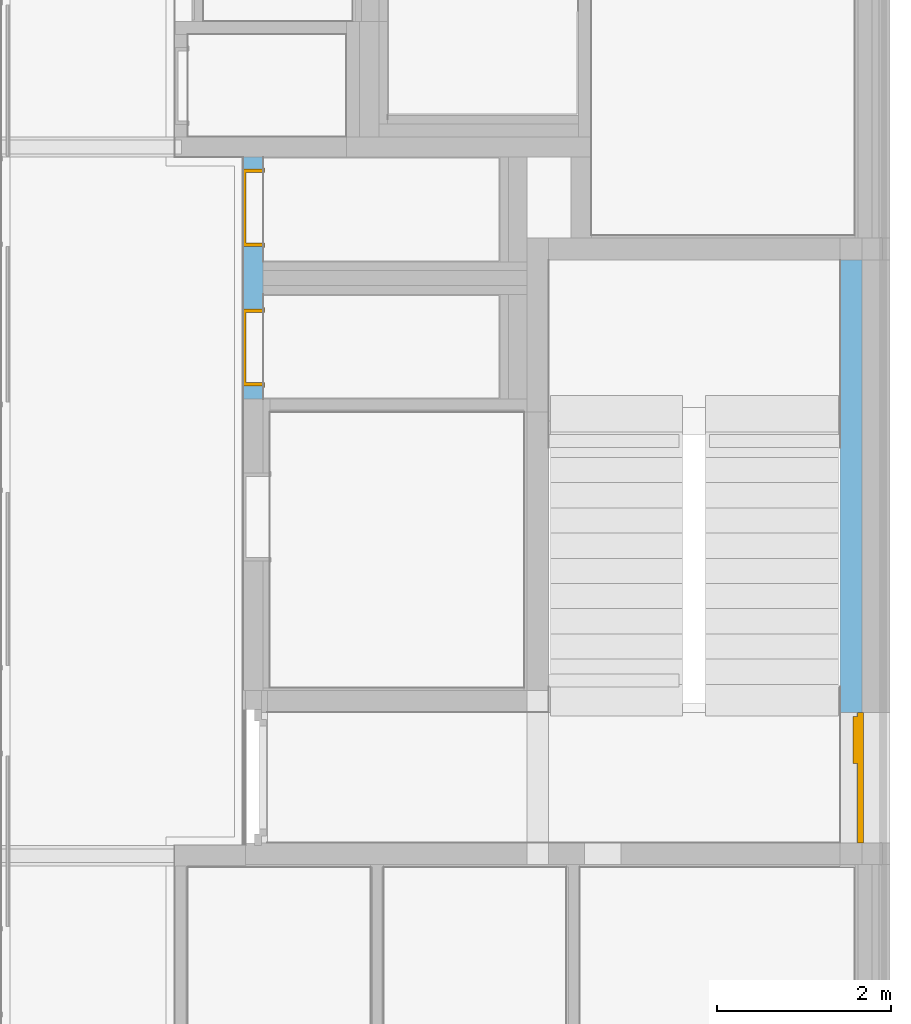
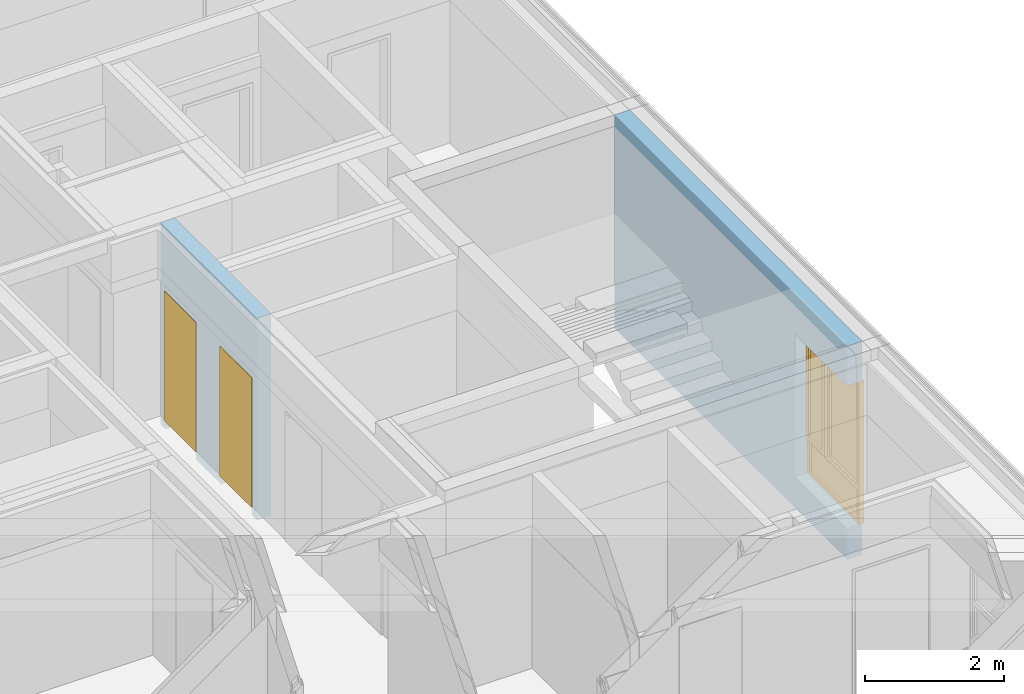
# One storey, part 136 of 222: 2 doors, 1 window, 3 openings, plus 2 elements that do not belong to this part.
"""IFC4 building model written with IfcOpenShell, lengths in metres."""

from ifc_helpers import new_model, entity, si_unit, converted_unit, derived_unit, frame, frame_2d, origin, origin_with_axes, place, context, subcontext, project, spatial, polyline, rectangle, outline, extrude, closed_shell, open_shell, faceted_brep, surface_model, source, transform, mapped, material, type_object, element, fill, save


model = new_model("IFC4")

# Units and contexts
model_context = context("Model", 3, precision=1e-05, world=origin())
body_context = subcontext(model_context, "Body", "Model", "MODEL_VIEW")
ifc_project = project(units=[si_unit("LENGTHUNIT", "METRE"), si_unit("AREAUNIT", "SQUARE_METRE"), si_unit("VOLUMEUNIT", "CUBIC_METRE"), si_unit("MASSUNIT", "GRAM", prefix="KILO"), converted_unit("PLANEANGLEUNIT", "DEGREE", entity("IfcPlaneAngleMeasure", 0.0174532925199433), si_unit("PLANEANGLEUNIT", "RADIAN"), dimensions=[0, 0, 0, 0, 0, 0, 0]), derived_unit("THERMALTRANSMITTANCEUNIT", [(si_unit("POWERUNIT", "WATT"), 1), (si_unit("THERMODYNAMICTEMPERATUREUNIT", "KELVIN"), -1), (si_unit("LENGTHUNIT", "METRE"), -2)]), derived_unit("VOLUMETRICFLOWRATEUNIT", [(si_unit("LENGTHUNIT", "METRE"), 3), (converted_unit("TIMEUNIT", "hour", entity("IfcTimeMeasure", 3600.0), si_unit("TIMEUNIT", "SECOND"), dimensions=[0, 0, 1, 0, 0, 0, 0]), -1), (si_unit("LENGTHUNIT", "METRE"), -1)])], contexts=[model_context])

# Site, building, storey
site_placement = place(None, origin())
site = spatial("IfcSite", under=ifc_project, at=site_placement, Name="Psychiatrie Neubau Wunstorf", CompositionType="ELEMENT")
building_placement = place(site_placement, origin())
building = spatial("IfcBuilding", under=site, at=building_placement, Name="Neubau H2 Stationsgebäude", CompositionType="ELEMENT")
storey_placement = place(building_placement, frame((0.0, 0.0, 3.6)))
storey = spatial("IfcBuildingStorey", under=building, at=storey_placement, Name="H2 Ebene +1", CompositionType="ELEMENT", Elevation=3.6)

# Wall, opening, window
ifc_material_1 = material(Name="WA-STB")
wall_1_placement = place(storey_placement, frame((105.72, 17.575, 0.0), z_axis=(0.0, 0.0, 1.0), x_axis=(0.0, -1.0, 0.0)))
wall_1 = element("IfcWall", 1, at=wall_1_placement, inside=storey, material=ifc_material_1, context=body_context, shape_type="SweptSolid", body=[
    extrude(rectangle(XDim=6.70000010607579, YDim=0.25, at=frame_2d((3.3500000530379, 0.125), x_axis=(1.0, 0.0))), origin_with_axes(), (0.0, 0.0, 1.0), 3.75),
])
opening_1_placement = place(wall_1_placement, frame((6.70000010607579, 0.25, 0.55), z_axis=(0.0, -1.0, 0.0), x_axis=(0.0, 0.0, 1.0)))
opening_1 = element("IfcOpeningElement", 2, at=opening_1_placement, cuts=wall_1, Name="Fensteröffnung", ObjectType="Opening", context=body_context, shape_type="SweptSolid", body=[
    extrude(outline(polyline([(2.5, 1.5), (2.5, 0.0), (0.0, 0.0), (0.0, 1.5), (2.5, 1.5)])), origin_with_axes(), (0.0, 0.0, 1.0), 0.25),
])
shared_shape_1 = source(origin_with_axes(), body_context, "Body", "SurfaceModel", [
    surface_model("IfcShellBasedSurfaceModel", [(0.0, 0.0, 2.5), (0.0700000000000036, 0.0, 2.5), (0.0700000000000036, 0.0, 0.0), (0.0, 0.0, 0.0), (0.0, 0.0699999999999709, 0.0), (0.0700000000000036, 0.0699999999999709, 0.0), (0.0700000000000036, 0.0699999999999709, 2.5), (0.0, 0.0699999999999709, 2.5)], [closed_shell([[[0, 1, 2, 3]], [[4, 5, 6, 7]], [[3, 4, 7, 0]], [[2, 5, 4, 3]], [[1, 6, 5, 2]], [[0, 7, 6, 1]]], orient=[[False], [False], [False], [False], [False], [False]])]),
    surface_model("IfcShellBasedSurfaceModel", [(1.43, 0.0, 2.5), (1.5, 0.0, 2.5), (1.5, 0.0, 0.0), (1.43, 0.0, 0.0), (1.43, 0.0699999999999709, 0.0), (1.5, 0.0699999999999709, 0.0), (1.5, 0.0699999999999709, 2.5), (1.43, 0.0699999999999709, 2.5)], [closed_shell([[[0, 1, 2, 3]], [[4, 5, 6, 7]], [[3, 4, 7, 0]], [[2, 5, 4, 3]], [[1, 6, 5, 2]], [[0, 7, 6, 1]]], orient=[[False], [False], [False], [False], [False], [False]])]),
    surface_model("IfcShellBasedSurfaceModel", [(0.0700000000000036, 0.0, 0.07), (1.43, 0.0, 0.07), (1.43, 0.0, 0.0), (0.0700000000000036, 0.0, 0.0), (0.0700000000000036, 0.0699999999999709, 0.0), (1.43, 0.0699999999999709, 0.0), (1.43, 0.0699999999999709, 0.07), (0.0700000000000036, 0.0699999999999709, 0.07)], [closed_shell([[[0, 1, 2, 3]], [[4, 5, 6, 7]], [[3, 4, 7, 0]], [[2, 5, 4, 3]], [[1, 6, 5, 2]], [[0, 7, 6, 1]]], orient=[[False], [False], [False], [False], [False], [False]])]),
    surface_model("IfcShellBasedSurfaceModel", [(0.0700000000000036, 0.0, 2.5), (1.43, 0.0, 2.5), (1.43, 0.0, 2.43), (0.0700000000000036, 0.0, 2.43), (0.0700000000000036, 0.0699999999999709, 2.43), (1.43, 0.0699999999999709, 2.43), (1.43, 0.0699999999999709, 2.5), (0.0700000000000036, 0.0699999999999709, 2.5)], [closed_shell([[[0, 1, 2, 3]], [[4, 5, 6, 7]], [[3, 4, 7, 0]], [[2, 5, 4, 3]], [[1, 6, 5, 2]], [[0, 7, 6, 1]]], orient=[[False], [False], [False], [False], [False], [False]])]),
    surface_model("IfcShellBasedSurfaceModel", [(0.0700000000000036, 0.0, 0.67), (1.43, 0.0, 0.67), (1.43, 0.0, 0.57), (0.0700000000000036, 0.0, 0.57), (0.0700000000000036, 0.0699999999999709, 0.57), (1.43, 0.0699999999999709, 0.57), (1.43, 0.0699999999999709, 0.67), (0.0700000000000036, 0.0699999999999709, 0.67)], [closed_shell([[[0, 1, 2, 3]], [[4, 5, 6, 7]], [[3, 4, 7, 0]], [[2, 5, 4, 3]], [[1, 6, 5, 2]], [[0, 7, 6, 1]]], orient=[[False], [False], [False], [False], [False], [False]])]),
    surface_model("IfcShellBasedSurfaceModel", [(0.0700000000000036, 0.0350000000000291, 0.07), (0.0700000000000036, 0.0350000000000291, 0.57), (1.43, 0.0350000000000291, 0.57), (1.43, 0.0350000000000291, 0.07)], [open_shell([[[0, 1, 2, 3]]], orient=[[False]])]),
    surface_model("IfcShellBasedSurfaceModel", [(0.570000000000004, 0.0, 2.43), (0.640000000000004, 0.0, 2.43), (0.640000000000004, 0.0, 0.67), (0.570000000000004, 0.0, 0.67), (0.570000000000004, 0.0699999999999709, 0.67), (0.640000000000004, 0.0699999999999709, 0.67), (0.640000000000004, 0.0699999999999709, 2.43), (0.570000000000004, 0.0699999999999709, 2.43)], [closed_shell([[[0, 1, 2, 3]], [[4, 5, 6, 7]], [[3, 4, 7, 0]], [[2, 5, 4, 3]], [[1, 6, 5, 2]], [[0, 7, 6, 1]]], orient=[[False], [False], [False], [False], [False], [False]])]),
    surface_model("IfcShellBasedSurfaceModel", [(0.0500000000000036, -0.0499999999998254, 2.45), (0.120000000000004, -0.0499999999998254, 2.45), (0.120000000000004, -0.0499999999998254, 0.65), (0.0500000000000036, -0.0499999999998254, 0.65), (0.0500000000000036, 0.0200000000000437, 0.65), (0.120000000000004, 0.0200000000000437, 0.65), (0.120000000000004, 0.0200000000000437, 2.45), (0.0500000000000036, 0.0200000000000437, 2.45)], [closed_shell([[[0, 1, 2, 3]], [[4, 5, 6, 7]], [[3, 4, 7, 0]], [[2, 5, 4, 3]], [[1, 6, 5, 2]], [[0, 7, 6, 1]]], orient=[[False], [False], [False], [False], [False], [False]])]),
    surface_model("IfcShellBasedSurfaceModel", [(0.520000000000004, -0.0499999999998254, 2.45), (0.590000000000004, -0.0499999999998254, 2.45), (0.590000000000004, -0.0499999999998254, 0.65), (0.520000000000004, -0.0499999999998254, 0.65), (0.520000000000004, 0.0200000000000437, 0.65), (0.590000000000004, 0.0200000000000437, 0.65), (0.590000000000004, 0.0200000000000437, 2.45), (0.520000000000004, 0.0200000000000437, 2.45)], [closed_shell([[[0, 1, 2, 3]], [[4, 5, 6, 7]], [[3, 4, 7, 0]], [[2, 5, 4, 3]], [[1, 6, 5, 2]], [[0, 7, 6, 1]]], orient=[[False], [False], [False], [False], [False], [False]])]),
    surface_model("IfcShellBasedSurfaceModel", [(0.120000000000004, -0.0499999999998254, 0.72), (0.520000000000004, -0.0499999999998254, 0.72), (0.520000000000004, -0.0499999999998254, 0.65), (0.120000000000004, -0.0499999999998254, 0.65), (0.120000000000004, 0.0200000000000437, 0.65), (0.520000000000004, 0.0200000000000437, 0.65), (0.520000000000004, 0.0200000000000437, 0.72), (0.120000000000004, 0.0200000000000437, 0.72)], [closed_shell([[[0, 1, 2, 3]], [[4, 5, 6, 7]], [[3, 4, 7, 0]], [[2, 5, 4, 3]], [[1, 6, 5, 2]], [[0, 7, 6, 1]]], orient=[[False], [False], [False], [False], [False], [False]])]),
    surface_model("IfcShellBasedSurfaceModel", [(0.120000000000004, -0.0499999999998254, 2.45), (0.520000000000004, -0.0499999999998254, 2.45), (0.520000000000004, -0.0499999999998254, 2.38), (0.120000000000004, -0.0499999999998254, 2.38), (0.120000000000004, 0.0200000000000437, 2.38), (0.520000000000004, 0.0200000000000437, 2.38), (0.520000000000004, 0.0200000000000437, 2.45), (0.120000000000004, 0.0200000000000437, 2.45)], [closed_shell([[[0, 1, 2, 3]], [[4, 5, 6, 7]], [[3, 4, 7, 0]], [[2, 5, 4, 3]], [[1, 6, 5, 2]], [[0, 7, 6, 1]]], orient=[[False], [False], [False], [False], [False], [False]])]),
    surface_model("IfcShellBasedSurfaceModel", [(0.640000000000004, 0.0350000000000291, 0.67), (0.640000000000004, 0.0350000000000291, 2.43), (1.43, 0.0350000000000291, 2.43), (1.43, 0.0350000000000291, 0.67)], [open_shell([[[0, 1, 2, 3]]], orient=[[False]])]),
    surface_model("IfcShellBasedSurfaceModel", [(0.120000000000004, -0.0149999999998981, 0.72), (0.120000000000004, -0.0149999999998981, 2.38), (0.520000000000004, -0.0149999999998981, 2.38), (0.520000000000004, -0.0149999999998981, 0.72)], [open_shell([[[0, 1, 2, 3]]], orient=[[False]])]),
])
window_placement = place(opening_1_placement, frame((0.0, 1.5, 0.05), z_axis=(1.0, 0.0, 0.0), x_axis=(0.0, -1.0, 0.0)))
window = element("IfcWindow", 3, at=window_placement, inside=storey, Name="Fenster", OverallHeight=2.5, OverallWidth=1.5, PartitioningType="USERDEFINED", PredefinedType="WINDOW", context=body_context, shape_type="MappedRepresentation", body=[
    mapped(shared_shape_1, transform((0.0, 0.0, 0.0), x_axis=(1.0, 0.0, 0.0), y_axis=(0.0, 1.0, 0.0), z_axis=(0.0, 0.0, 1.0), scale=1.0)),
])
fill(opening_1, window)

# Wall, openings, doors
ifc_material_2 = material(Name="WI-HW 60")
wall_2_placement = place(storey_placement, frame((98.8589999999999, 18.7540040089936, 0.0), z_axis=(0.0, 0.0, 1.0), x_axis=(0.0, -1.0, 0.0)))
wall_2 = element("IfcWall", 4, at=wall_2_placement, inside=storey, material=ifc_material_2, context=body_context, shape_type="SweptSolid", body=[
    extrude(rectangle(XDim=2.7790026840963, YDim=0.232, at=frame_2d((1.38950134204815, 0.116), x_axis=(1.0, 0.0))), origin_with_axes(), (0.0, 0.0, 1.0), 3.55),
])
opening_2_placement = place(wall_2_placement, frame((1.7440026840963, 0.0, 0.0), z_axis=(0.0, 1.0, 0.0), x_axis=(0.0, 0.0, 1.0)))
opening_2 = element("IfcOpeningElement", 5, at=opening_2_placement, cuts=wall_2, Name="Türöffnung", ObjectType="Opening", context=body_context, shape_type="SweptSolid", body=[
    extrude(outline(polyline([(2.41, 0.885), (2.41, 0.0), (0.0, 0.0), (0.0, 0.885), (2.41, 0.885)])), origin_with_axes(), (0.0, 0.0, 1.0), 0.232),
])
opening_3_placement = place(wall_2_placement, frame((0.139001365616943, 0.0, 0.0), z_axis=(0.0, 1.0, 0.0), x_axis=(0.0, 0.0, 1.0)))
opening_3 = element("IfcOpeningElement", 6, at=opening_3_placement, cuts=wall_2, Name="Türöffnung", ObjectType="Opening", context=body_context, shape_type="SweptSolid", body=[
    extrude(outline(polyline([(2.41, 0.885), (2.41, 0.0), (0.0, 0.0), (0.0, 0.885), (2.41, 0.885)])), origin_with_axes(), (0.0, 0.0, 1.0), 0.232),
])
ifc_material_3 = material(Name="TI-1F-UZ-D-N")
door_type_1 = type_object("IfcDoorType", Name="SMT", OperationType="SINGLE_SWING_RIGHT", ParameterTakesPrecedence=False, PredefinedType="DOOR")
shared_shape_2 = source(origin_with_axes(), body_context, "Body", "Brep", [
    faceted_brep([(0.0, -0.0149999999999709, 2.41), (0.0399999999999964, -0.0149999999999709, 2.41), (0.0399999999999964, -0.0149999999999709, 0.15), (0.0, -0.0149999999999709, 0.15), (0.0, 0.247000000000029, 0.15), (0.0399999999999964, 0.247000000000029, 0.15), (0.0399999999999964, 0.247000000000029, 2.41), (0.0, 0.247000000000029, 2.41)], [[[0, 1, 2, 3]], [[4, 5, 6, 7]], [[3, 4, 7, 0]], [[2, 5, 4, 3]], [[1, 6, 5, 2]], [[0, 7, 6, 1]]], orient=[[False], [False], [False], [False], [False], [False]]),
    faceted_brep([(0.0, -0.0149999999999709, 2.425), (0.0, -0.0149999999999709, 0.15), (-0.0150000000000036, -0.0149999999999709, 0.15), (-0.0150000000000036, -0.0149999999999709, 2.425), (0.0, 0.0, 0.15), (0.0, 0.0, 2.425), (-0.0150000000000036, 0.0, 2.425), (-0.0150000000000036, 0.0, 0.15)], [[[0, 1, 2, 3]], [[4, 5, 6, 7]], [[1, 0, 5, 4]], [[2, 1, 4, 7]], [[3, 2, 7, 6]], [[0, 3, 6, 5]]], orient=[[False], [False], [False], [False], [False], [False]]),
    faceted_brep([(0.0, 0.232000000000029, 2.425), (0.0, 0.232000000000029, 0.15), (-0.0150000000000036, 0.232000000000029, 0.15), (-0.0150000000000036, 0.232000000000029, 2.425), (0.0, 0.247000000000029, 0.15), (0.0, 0.247000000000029, 2.425), (-0.0150000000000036, 0.247000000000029, 2.425), (-0.0150000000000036, 0.247000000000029, 0.15)], [[[0, 1, 2, 3]], [[4, 5, 6, 7]], [[1, 0, 5, 4]], [[2, 1, 4, 7]], [[3, 2, 7, 6]], [[0, 3, 6, 5]]], orient=[[False], [False], [False], [False], [False], [False]]),
    faceted_brep([(0.844999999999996, -0.0149999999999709, 2.41), (0.884999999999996, -0.0149999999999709, 2.41), (0.884999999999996, -0.0149999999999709, 0.15), (0.844999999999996, -0.0149999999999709, 0.15), (0.844999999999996, 0.247000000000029, 0.15), (0.884999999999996, 0.247000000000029, 0.15), (0.884999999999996, 0.247000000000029, 2.41), (0.844999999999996, 0.247000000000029, 2.41)], [[[0, 1, 2, 3]], [[4, 5, 6, 7]], [[3, 4, 7, 0]], [[2, 5, 4, 3]], [[1, 6, 5, 2]], [[0, 7, 6, 1]]], orient=[[False], [False], [False], [False], [False], [False]]),
    faceted_brep([(0.884999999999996, -0.0149999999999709, 2.425), (0.899999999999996, -0.0149999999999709, 2.425), (0.899999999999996, -0.0149999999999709, 0.15), (0.884999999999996, -0.0149999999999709, 0.15), (0.884999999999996, 0.0, 0.15), (0.899999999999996, 0.0, 0.15), (0.899999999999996, 0.0, 2.425), (0.884999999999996, 0.0, 2.425)], [[[0, 1, 2, 3]], [[4, 5, 6, 7]], [[3, 4, 7, 0]], [[2, 5, 4, 3]], [[1, 6, 5, 2]], [[0, 7, 6, 1]]], orient=[[False], [False], [False], [False], [False], [False]]),
    faceted_brep([(0.884999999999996, 0.232000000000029, 2.425), (0.899999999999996, 0.232000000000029, 2.425), (0.899999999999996, 0.232000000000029, 0.15), (0.884999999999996, 0.232000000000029, 0.15), (0.884999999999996, 0.247000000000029, 0.15), (0.899999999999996, 0.247000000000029, 0.15), (0.899999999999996, 0.247000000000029, 2.425), (0.884999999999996, 0.247000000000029, 2.425)], [[[0, 1, 2, 3]], [[4, 5, 6, 7]], [[3, 4, 7, 0]], [[2, 5, 4, 3]], [[1, 6, 5, 2]], [[0, 7, 6, 1]]], orient=[[False], [False], [False], [False], [False], [False]]),
    faceted_brep([(0.0399999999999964, -0.0149999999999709, 2.41), (0.844999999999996, -0.0149999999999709, 2.41), (0.844999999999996, -0.0149999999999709, 2.37), (0.0399999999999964, -0.0149999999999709, 2.37), (0.0399999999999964, 0.247000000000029, 2.37), (0.844999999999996, 0.247000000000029, 2.37), (0.844999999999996, 0.247000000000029, 2.41), (0.0399999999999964, 0.247000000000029, 2.41)], [[[0, 1, 2, 3]], [[4, 5, 6, 7]], [[3, 4, 7, 0]], [[2, 5, 4, 3]], [[1, 6, 5, 2]], [[0, 7, 6, 1]]], orient=[[False], [False], [False], [False], [False], [False]]),
    faceted_brep([(0.0, -0.0149999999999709, 2.425), (0.884999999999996, -0.0149999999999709, 2.425), (0.884999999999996, -0.0149999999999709, 2.41), (0.0, -0.0149999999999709, 2.41), (0.0, 0.0, 2.41), (0.884999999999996, 0.0, 2.41), (0.884999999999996, 0.0, 2.425), (0.0, 0.0, 2.425)], [[[0, 1, 2, 3]], [[4, 5, 6, 7]], [[3, 4, 7, 0]], [[2, 5, 4, 3]], [[1, 6, 5, 2]], [[0, 7, 6, 1]]], orient=[[False], [False], [False], [False], [False], [False]]),
    faceted_brep([(0.0, 0.232000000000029, 2.425), (0.884999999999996, 0.232000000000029, 2.425), (0.884999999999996, 0.232000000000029, 2.41), (0.0, 0.232000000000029, 2.41), (0.0, 0.247000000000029, 2.41), (0.884999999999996, 0.247000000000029, 2.41), (0.884999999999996, 0.247000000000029, 2.425), (0.0, 0.247000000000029, 2.425)], [[[0, 1, 2, 3]], [[4, 5, 6, 7]], [[3, 4, 7, 0]], [[2, 5, 4, 3]], [[1, 6, 5, 2]], [[0, 7, 6, 1]]], orient=[[False], [False], [False], [False], [False], [False]]),
    faceted_brep([(0.0249999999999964, 0.198000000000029, 2.385), (0.859999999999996, 0.198000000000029, 2.385), (0.859999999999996, 0.198000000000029, 0.15), (0.0249999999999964, 0.198000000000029, 0.15), (0.0249999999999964, 0.248000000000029, 0.15), (0.859999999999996, 0.248000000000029, 0.15), (0.859999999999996, 0.248000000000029, 2.385), (0.0249999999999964, 0.248000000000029, 2.385)], [[[0, 1, 2, 3]], [[4, 5, 6, 7]], [[3, 4, 7, 0]], [[2, 5, 4, 3]], [[1, 6, 5, 2]], [[0, 7, 6, 1]]], orient=[[False], [False], [False], [False], [False], [False]]),
])
door_1_placement = place(opening_2_placement, frame((0.0, 0.885, 0.232), z_axis=(1.0, 0.0, 0.0), x_axis=(0.0, -1.0, 0.0)))
door_1 = element("IfcDoor", 7, at=door_1_placement, inside=storey, type_object=door_type_1, material=ifc_material_3, Name="SMT", OverallHeight=2.41, OverallWidth=0.885, context=body_context, shape_type="MappedRepresentation", body=[
    mapped(shared_shape_2, transform((0.0, 0.0, 0.0), x_axis=(1.0, 0.0, 0.0), y_axis=(0.0, 1.0, 0.0), z_axis=(0.0, 0.0, 1.0), scale=1.0)),
])
fill(opening_2, door_1)
ifc_material_4 = material(Name="TI-1F-UZ-D-N")
door_type_2 = type_object("IfcDoorType", Name="SMT", OperationType="SINGLE_SWING_RIGHT", ParameterTakesPrecedence=False, PredefinedType="DOOR")
shared_shape_3 = source(origin_with_axes(), body_context, "Body", "Brep", [
    faceted_brep([(0.884999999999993, -0.0149999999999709, 2.41), (0.884999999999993, -0.0149999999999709, 0.15), (0.844999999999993, -0.0149999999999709, 0.15), (0.844999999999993, -0.0149999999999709, 2.41), (0.884999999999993, 0.247000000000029, 0.15), (0.884999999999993, 0.247000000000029, 2.41), (0.844999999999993, 0.247000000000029, 2.41), (0.844999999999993, 0.247000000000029, 0.15)], [[[0, 1, 2, 3]], [[4, 5, 6, 7]], [[1, 0, 5, 4]], [[2, 1, 4, 7]], [[3, 2, 7, 6]], [[0, 3, 6, 5]]], orient=[[False], [False], [False], [False], [False], [False]]),
    faceted_brep([(0.884999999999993, -0.0149999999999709, 2.425), (0.899999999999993, -0.0149999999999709, 2.425), (0.899999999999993, -0.0149999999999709, 0.15), (0.884999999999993, -0.0149999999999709, 0.15), (0.884999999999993, 0.0, 0.15), (0.899999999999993, 0.0, 0.15), (0.899999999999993, 0.0, 2.425), (0.884999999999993, 0.0, 2.425)], [[[0, 1, 2, 3]], [[4, 5, 6, 7]], [[3, 4, 7, 0]], [[2, 5, 4, 3]], [[1, 6, 5, 2]], [[0, 7, 6, 1]]], orient=[[False], [False], [False], [False], [False], [False]]),
    faceted_brep([(0.884999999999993, 0.232000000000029, 2.425), (0.899999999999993, 0.232000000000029, 2.425), (0.899999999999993, 0.232000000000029, 0.15), (0.884999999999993, 0.232000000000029, 0.15), (0.884999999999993, 0.247000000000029, 0.15), (0.899999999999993, 0.247000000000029, 0.15), (0.899999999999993, 0.247000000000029, 2.425), (0.884999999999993, 0.247000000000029, 2.425)], [[[0, 1, 2, 3]], [[4, 5, 6, 7]], [[3, 4, 7, 0]], [[2, 5, 4, 3]], [[1, 6, 5, 2]], [[0, 7, 6, 1]]], orient=[[False], [False], [False], [False], [False], [False]]),
    faceted_brep([(0.0399999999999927, -0.0149999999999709, 2.41), (0.0399999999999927, -0.0149999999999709, 0.15), (0.0, -0.0149999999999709, 0.15), (0.0, -0.0149999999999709, 2.41), (0.0399999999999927, 0.247000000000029, 0.15), (0.0399999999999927, 0.247000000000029, 2.41), (0.0, 0.247000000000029, 2.41), (0.0, 0.247000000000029, 0.15)], [[[0, 1, 2, 3]], [[4, 5, 6, 7]], [[1, 0, 5, 4]], [[2, 1, 4, 7]], [[3, 2, 7, 6]], [[0, 3, 6, 5]]], orient=[[False], [False], [False], [False], [False], [False]]),
    faceted_brep([(0.0, -0.0149999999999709, 2.425), (0.0, -0.0149999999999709, 0.15), (-0.0150000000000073, -0.0149999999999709, 0.15), (-0.0150000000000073, -0.0149999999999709, 2.425), (0.0, 0.0, 0.15), (0.0, 0.0, 2.425), (-0.0150000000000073, 0.0, 2.425), (-0.0150000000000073, 0.0, 0.15)], [[[0, 1, 2, 3]], [[4, 5, 6, 7]], [[1, 0, 5, 4]], [[2, 1, 4, 7]], [[3, 2, 7, 6]], [[0, 3, 6, 5]]], orient=[[False], [False], [False], [False], [False], [False]]),
    faceted_brep([(0.0, 0.232000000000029, 2.425), (0.0, 0.232000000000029, 0.15), (-0.0150000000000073, 0.232000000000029, 0.15), (-0.0150000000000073, 0.232000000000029, 2.425), (0.0, 0.247000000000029, 0.15), (0.0, 0.247000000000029, 2.425), (-0.0150000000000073, 0.247000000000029, 2.425), (-0.0150000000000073, 0.247000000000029, 0.15)], [[[0, 1, 2, 3]], [[4, 5, 6, 7]], [[1, 0, 5, 4]], [[2, 1, 4, 7]], [[3, 2, 7, 6]], [[0, 3, 6, 5]]], orient=[[False], [False], [False], [False], [False], [False]]),
    faceted_brep([(0.844999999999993, -0.0149999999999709, 2.41), (0.844999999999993, -0.0149999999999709, 2.37), (0.0399999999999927, -0.0149999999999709, 2.37), (0.0399999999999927, -0.0149999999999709, 2.41), (0.844999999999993, 0.247000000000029, 2.37), (0.844999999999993, 0.247000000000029, 2.41), (0.0399999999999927, 0.247000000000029, 2.41), (0.0399999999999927, 0.247000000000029, 2.37)], [[[0, 1, 2, 3]], [[4, 5, 6, 7]], [[1, 0, 5, 4]], [[2, 1, 4, 7]], [[3, 2, 7, 6]], [[0, 3, 6, 5]]], orient=[[False], [False], [False], [False], [False], [False]]),
    faceted_brep([(0.884999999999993, -0.0149999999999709, 2.425), (0.884999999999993, -0.0149999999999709, 2.41), (0.0, -0.0149999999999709, 2.41), (0.0, -0.0149999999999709, 2.425), (0.884999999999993, 0.0, 2.41), (0.884999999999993, 0.0, 2.425), (0.0, 0.0, 2.425), (0.0, 0.0, 2.41)], [[[0, 1, 2, 3]], [[4, 5, 6, 7]], [[1, 0, 5, 4]], [[2, 1, 4, 7]], [[3, 2, 7, 6]], [[0, 3, 6, 5]]], orient=[[False], [False], [False], [False], [False], [False]]),
    faceted_brep([(0.884999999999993, 0.232000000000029, 2.425), (0.884999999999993, 0.232000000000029, 2.41), (0.0, 0.232000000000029, 2.41), (0.0, 0.232000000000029, 2.425), (0.884999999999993, 0.247000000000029, 2.41), (0.884999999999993, 0.247000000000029, 2.425), (0.0, 0.247000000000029, 2.425), (0.0, 0.247000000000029, 2.41)], [[[0, 1, 2, 3]], [[4, 5, 6, 7]], [[1, 0, 5, 4]], [[2, 1, 4, 7]], [[3, 2, 7, 6]], [[0, 3, 6, 5]]], orient=[[False], [False], [False], [False], [False], [False]]),
    faceted_brep([(0.859999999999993, 0.198000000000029, 2.385), (0.859999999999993, 0.198000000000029, 0.15), (0.0249999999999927, 0.198000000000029, 0.15), (0.0249999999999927, 0.198000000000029, 2.385), (0.859999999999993, 0.248000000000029, 0.15), (0.859999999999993, 0.248000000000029, 2.385), (0.0249999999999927, 0.248000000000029, 2.385), (0.0249999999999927, 0.248000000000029, 0.15)], [[[0, 1, 2, 3]], [[4, 5, 6, 7]], [[1, 0, 5, 4]], [[2, 1, 4, 7]], [[3, 2, 7, 6]], [[0, 3, 6, 5]]], orient=[[False], [False], [False], [False], [False], [False]]),
])
door_2_placement = place(opening_3_placement, frame((0.0, 0.885, 0.232), z_axis=(1.0, 0.0, 0.0), x_axis=(0.0, -1.0, 0.0)))
door_2 = element("IfcDoor", 8, at=door_2_placement, inside=storey, type_object=door_type_2, material=ifc_material_4, Name="SMT", OverallHeight=2.41, OverallWidth=0.885, context=body_context, shape_type="MappedRepresentation", body=[
    mapped(shared_shape_3, transform((0.0, 0.0, 0.0), x_axis=(1.0, 0.0, 0.0), y_axis=(0.0, 1.0, 0.0), z_axis=(0.0, 0.0, 1.0), scale=1.0)),
])
fill(opening_3, door_2)

save(model, "model.ifc")
